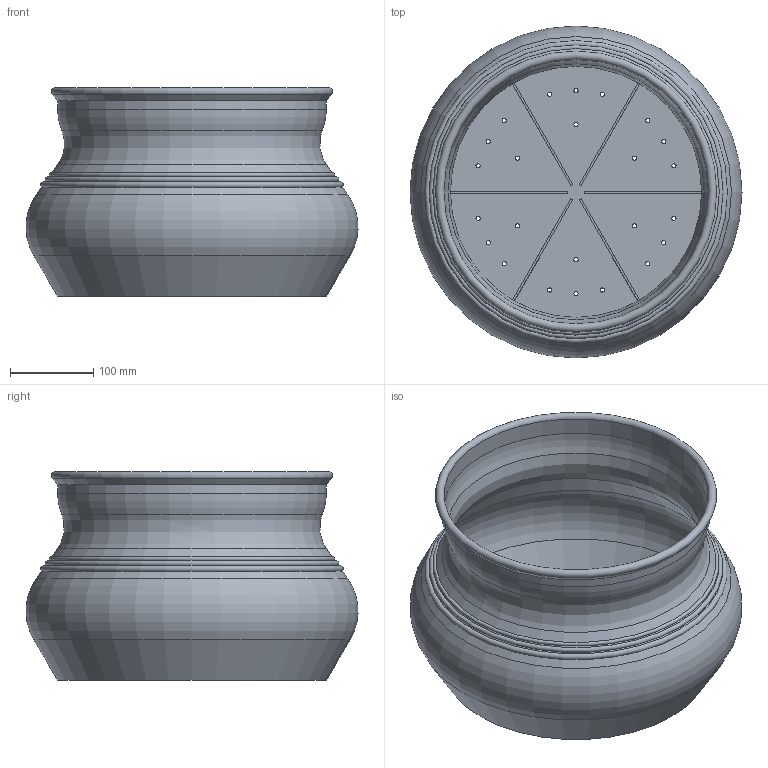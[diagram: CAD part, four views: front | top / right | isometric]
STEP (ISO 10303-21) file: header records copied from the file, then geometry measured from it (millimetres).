
FILE_DESCRIPTION(/* description */ (''),/* implementation_level */ '2;1');
FILE_NAME(/* name */ 'LR2406-S25-H250-D400_step.step',/* time_stamp */ '2024-02-01T11:00:30+01:00',/* author */ (''),/* organization */ (''),/* preprocessor_version */ 'ST-DEVELOPER v20',/* originating_system */ 'Autodesk Translation Framework v12.20.1.177',/* authorisation */ '');
FILE_SCHEMA (('AUTOMOTIVE_DESIGN { 1 0 10303 214 3 1 1 }'));
Length unit declared in the file: millimetre
Products named in the file (1): LR2406-S25-H250-D400
Bounding box: 397.91 x 397.91 x 250 mm (x, y, z)
Volume: 993755.8 mm3; surface area: 778752.8 mm2
Topology: 1 solids, 1 shells, 70 faces, 185 edges, 117 vertices
Faces by surface type: cylinder 32, plane 20, torus 10, cone 8
Full cylindrical faces by diameter (mm): 5 x24, 317 x1, 322 x1
Entity records: 2336 total; most frequent: DIRECTION 430, CARTESIAN_POINT 373, ORIENTED_EDGE 370, EDGE_CURVE 185, AXIS2_PLACEMENT_3D 174, EDGE_LOOP 118, VERTEX_POINT 117, CIRCLE 103
